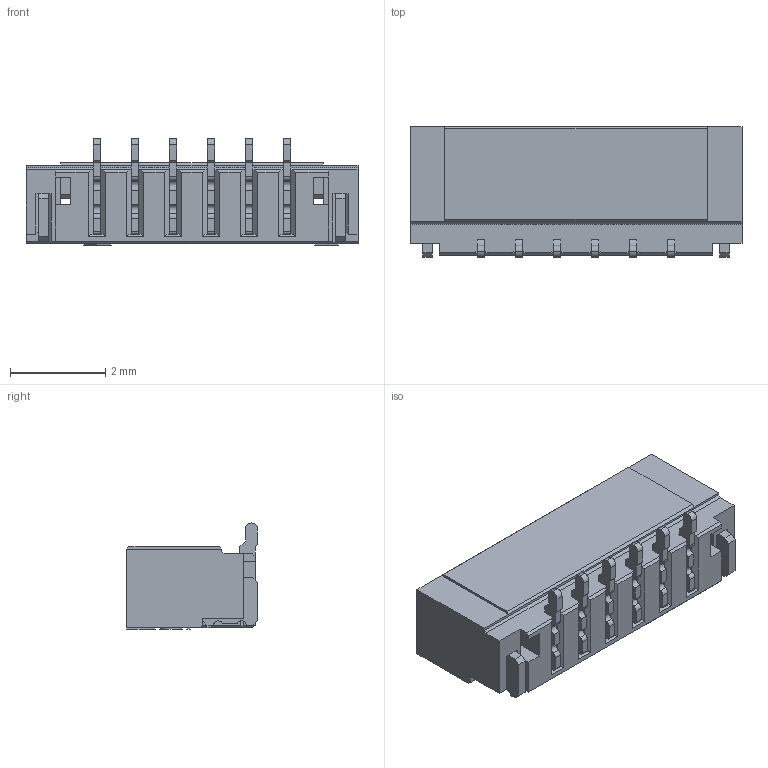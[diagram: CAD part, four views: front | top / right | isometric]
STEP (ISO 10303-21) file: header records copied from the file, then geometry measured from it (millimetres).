
FILE_DESCRIPTION(('CoCreate Modeling STEP Export'),'2;1');
FILE_NAME('S-88459-006xx-xxx-F0.stp','2009-08-26T14:17:52',(''),(''),'CoCreate Modeling STEP processor for AP214 (Solid Model)','CoCreate Modeling 16.00 13-May-2008 (C) Parametric Technology GmbH','');
FILE_SCHEMA(('AUTOMOTIVE_DESIGN { 1 0 10303 214 1 1 1 1 }'));
Length unit declared in the file: millimetre
Products named in the file (1): 88459-06XX-XX-X
Bounding box: 6.98 x 2.75 x 2.23 mm (x, y, z)
Volume: 18.9 mm3; surface area: 135.6 mm2
Topology: 1 solids, 1 shells, 657 faces, 2082 edges, 1342 vertices
Faces by surface type: plane 501, cylinder 156
Entity records: 22992 total; most frequent: ORIENTED_EDGE 4164, CARTESIAN_POINT 4156, DIRECTION 3602, EDGE_CURVE 2082, VECTOR 1738, LINE 1738, VERTEX_POINT 1342, AXIS2_PLACEMENT_3D 932
